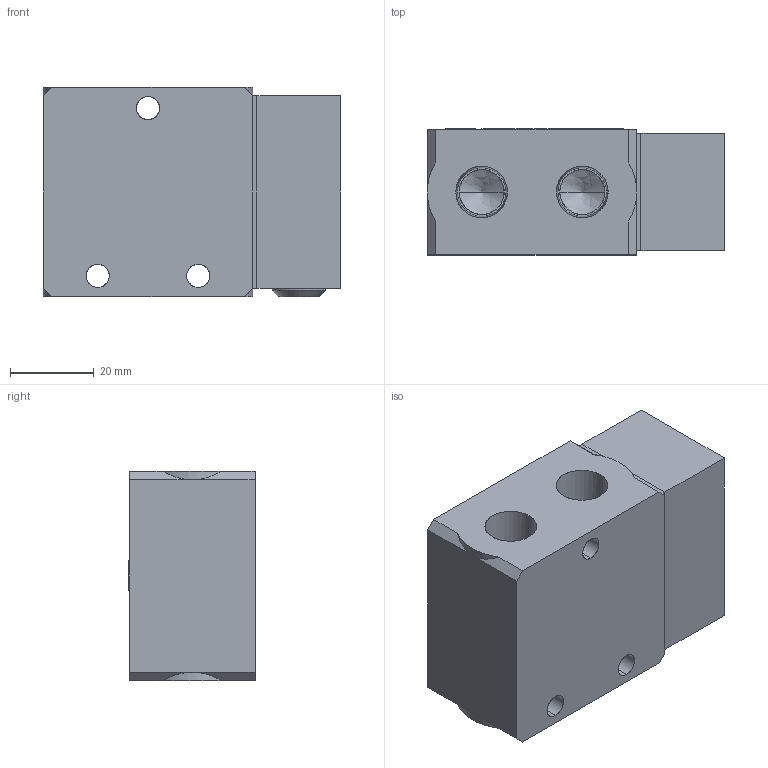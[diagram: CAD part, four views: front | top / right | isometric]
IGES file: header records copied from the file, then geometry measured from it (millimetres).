
Start section: SolidWorks IGES file using analytic representation for surfaces
Global section: file name: D:\Custom\3D繪製\VM\V06,10\VS2306-02.IGS,1; native system: 5HSolidWorks 2014; preprocessor: SolidWorks 2014; author: Chieh_Lu; date: 160114.024039; units: millimetre
Bounding box: 71 x 30.1 x 50 mm (x, y, z)
Surface area: 26130 mm2 (no closed solid volume)
Topology: 0 solids, 0 shells, 414 faces, 4214 edges, 4191 vertices
Faces by surface type: bspline 273, revolution 141
